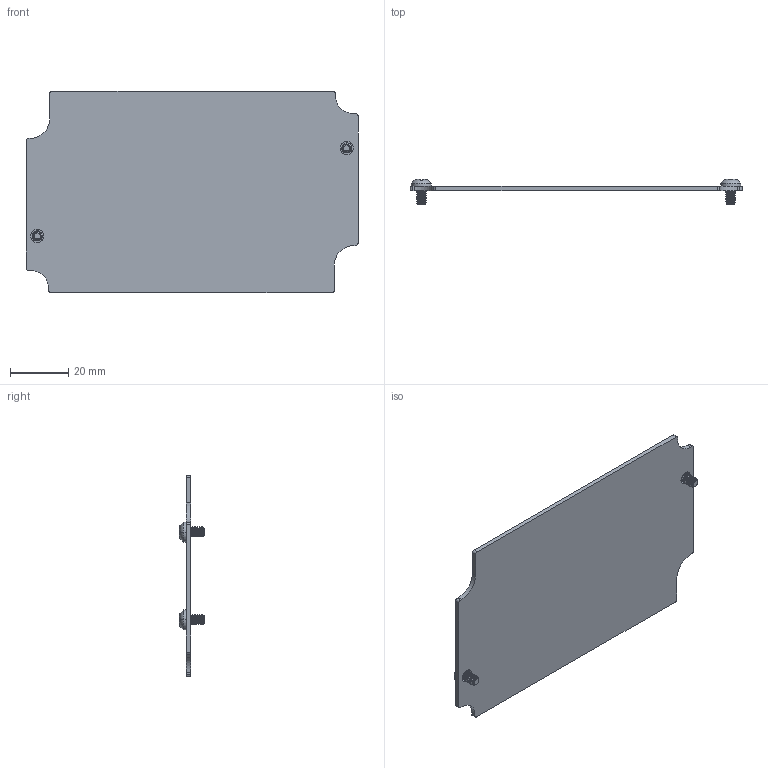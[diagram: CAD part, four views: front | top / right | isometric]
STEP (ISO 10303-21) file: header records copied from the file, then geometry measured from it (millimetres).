
FILE_DESCRIPTION (( 'STEP AP214' ), '1' );
FILE_NAME ('AN-13K.step', '2026-09-17T19:31:32', ( '' ), ( '' ), 'SwSTEP 2.0', 'SolidWorks 2026', '' );
FILE_SCHEMA (( 'AUTOMOTIVE_DESIGN' ));
Length unit declared in the file: inch
Products named in the file (3): AN-13-P_DEFAULT; SCREWS-050; AN-13K
Assembly tree (3 placements, depth 2):
  AN-13K
    AN-13-P_DEFAULT
    SCREWS-050  x2
Bounding box: 113.8 x 8.8 x 69.1 mm (x, y, z)
Volume: 11619.9 mm3; surface area: 15949.7 mm2
Topology: 3 solids, 3 shells, 700 faces, 1698 edges, 1002 vertices
Faces by surface type: bspline 368, cylinder 172, plane 64, sphere 48, cone 40, torus 8
Entity records: 17372 total; most frequent: CARTESIAN_POINT 10059, ORIENTED_EDGE 1778, DIRECTION 1041, EDGE_CURVE 889, VERTEX_POINT 529, B_SPLINE_CURVE_WITH_KNOTS 415, AXIS2_PLACEMENT_3D 380, EDGE_LOOP 370
